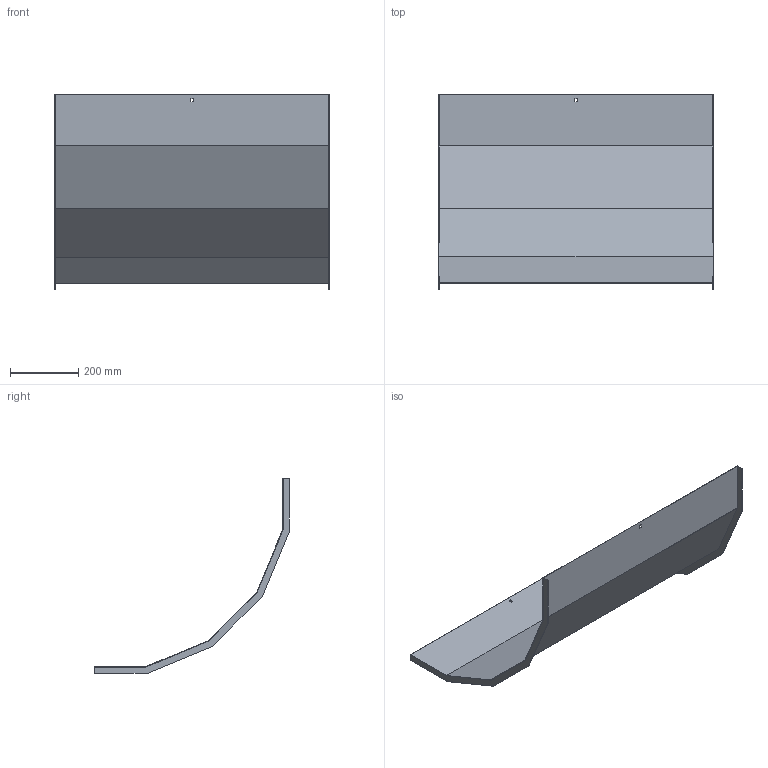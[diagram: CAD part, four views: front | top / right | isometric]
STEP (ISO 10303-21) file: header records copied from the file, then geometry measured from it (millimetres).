
FILE_DESCRIPTION (( 'STEP AP214' ), '1' );
FILE_NAME ('A2X30N5R800X.step', '2025-03-20T09:46:31', ( '' ), ( '' ), 'SwSTEP 2.0', 'SolidWorks 2023', '' );
FILE_SCHEMA (( 'AUTOMOTIVE_DESIGN' ));
Length unit declared in the file: millimetre
Products named in the file (1): A2X30N5R800X
Bounding box: 803 x 569.92 x 569.92 mm (x, y, z)
Volume: 1130793.4 mm3; surface area: 1513116.6 mm2
Topology: 1 solids, 1 shells, 34 faces, 96 edges, 64 vertices
Faces by surface type: plane 34
Entity records: 1111 total; most frequent: CARTESIAN_POINT 195, ORIENTED_EDGE 192, DIRECTION 166, EDGE_CURVE 96, VECTOR 96, LINE 96, VERTEX_POINT 64, EDGE_LOOP 38
